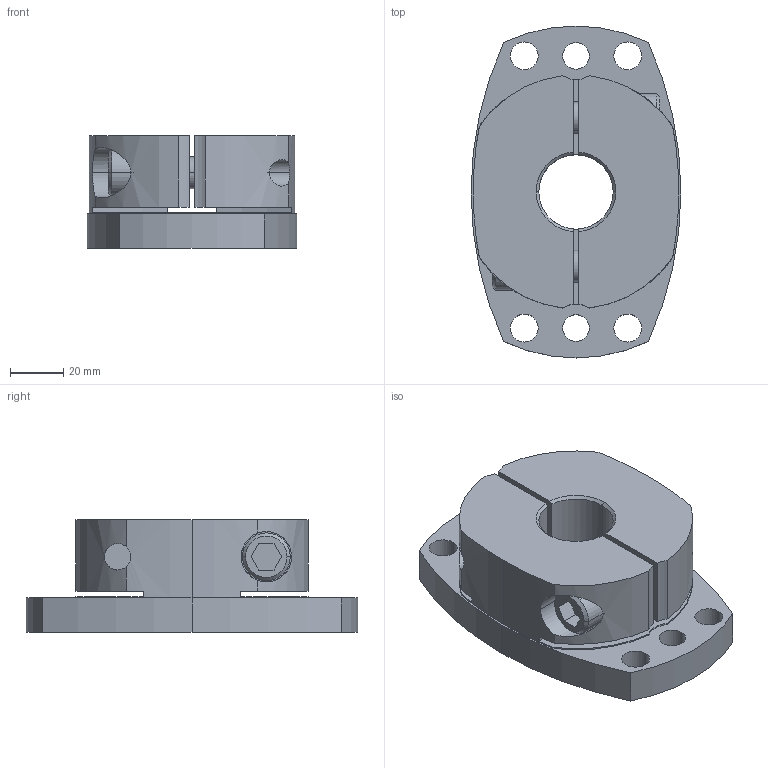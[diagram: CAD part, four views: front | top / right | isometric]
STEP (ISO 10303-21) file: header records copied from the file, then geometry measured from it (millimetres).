
FILE_DESCRIPTION((''),'2;1');
FILE_NAME('SHDB-125B-28.stp','2026-01-28T08:47:54',(''),(''),'AutoCAD STEP 2000i','AutoCAD 2000i',', , ');
FILE_SCHEMA(('CONFIG_CONTROL_DESIGN'));
Length unit declared in the file: millimetre
Products named in the file (2): SHDB-125B-25; 忣兜1
Assembly tree (1 placements, depth 2):
  SHDB-125B-25
    忣兜1
Bounding box: 79 x 125 x 42.5 mm (x, y, z)
Volume: 230325.7 mm3; surface area: 47050.5 mm2
Topology: 1 solids, 1 shells, 102 faces, 280 edges, 184 vertices
Faces by surface type: cylinder 58, plane 34, cone 10
Entity records: 3699 total; most frequent: CARTESIAN_POINT 872, DIRECTION 602, ORIENTED_EDGE 560, EDGE_CURVE 280, AXIS2_PLACEMENT_3D 238, VERTEX_POINT 184, CIRCLE 134, VECTOR 126
